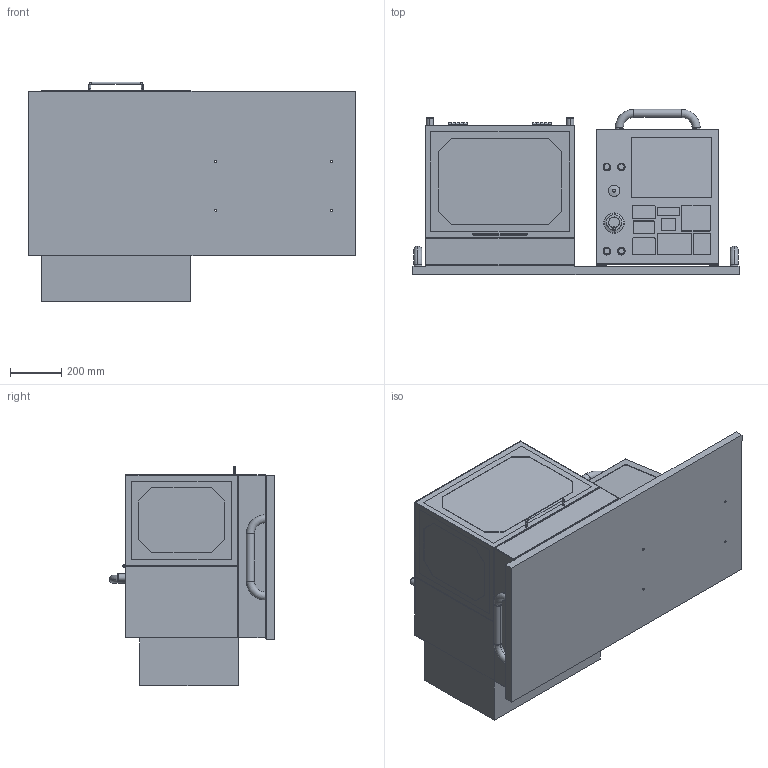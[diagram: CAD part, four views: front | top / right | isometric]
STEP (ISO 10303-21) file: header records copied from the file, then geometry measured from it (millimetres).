
FILE_DESCRIPTION (( 'STEP AP203' ), '1' );
FILE_NAME ('10000261265 Desktop Mill Master assembly.STEP', '2024-04-19T16:36:32', ( '' ), ( '' ), 'SwSTEP 2.0', 'SolidWorks 2022', '' );
FILE_SCHEMA (( 'CONFIG_CONTROL_DESIGN' ));
Length unit declared in the file: inch
Products named in the file (9): 10000261264 test parts-base tray and encllosure; 10000261265 Desktop Mill Master assembly; 10000261265 desktop Mill lid; 10000261265 desktop Mill z axis assembly; 10000261265 desktop Mill y axis assembly; 10000261265 desktop Mill table; 10000261264 control panel-1; 10000261265 Desktop Mill X Axis Assembly; 10000261265 desktop Mill vice assembly
Assembly tree (8 placements, depth 2):
  10000261265 Desktop Mill Master assembly
    10000261265 desktop Mill lid
    10000261265 desktop Mill table
    10000261265 desktop Mill vice assembly
    10000261265 desktop Mill y axis assembly
    10000261265 Desktop Mill X Axis Assembly
    10000261265 desktop Mill z axis assembly
    10000261264 control panel-1
    10000261264 test parts-base tray and encllosure
Bounding box: 1270 x 643.57 x 855.62 mm (x, y, z)
Volume: 117594929.7 mm3; surface area: 8254552.8 mm2
Topology: 15 solids, 28 shells, 2449 faces, 6560 edges, 4254 vertices
Faces by surface type: plane 1556, cylinder 700, bspline 135, torus 34, cone 24
Entity records: 85839 total; most frequent: CARTESIAN_POINT 24027, ORIENTED_EDGE 13096, DIRECTION 11994, EDGE_CURVE 6548, LINE 4758, VECTOR 4758, VERTEX_POINT 4254, AXIS2_PLACEMENT_3D 3618
